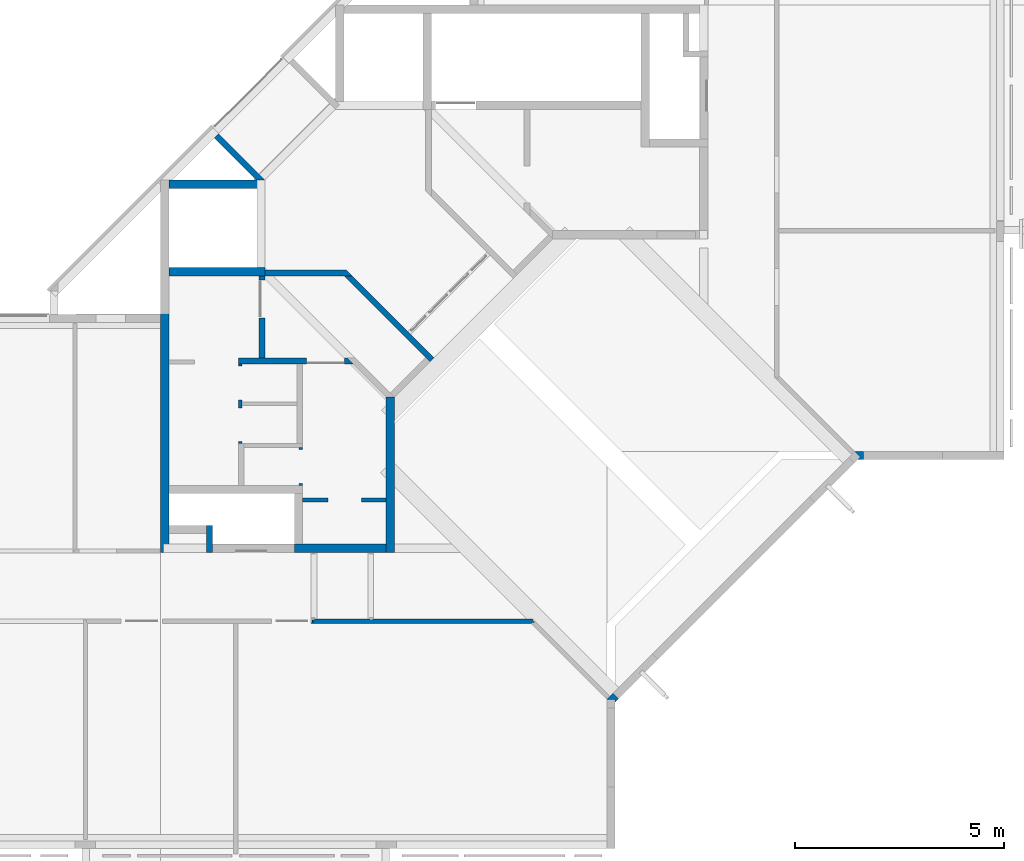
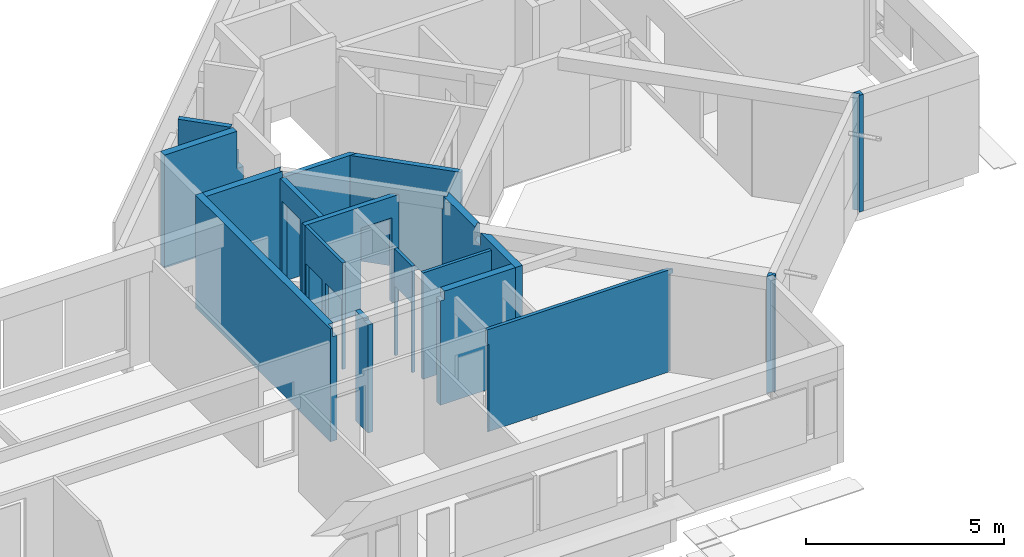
# One storey, part 22 of 38: 17 walls.
"""IFC4X3_ADD2 building model written with IfcOpenShell, lengths in millimetres."""

from ifc_helpers import new_model, si_unit, direction, frame, origin_with_axes, place, context, subcontext, project, spatial, polygons, source, transform, mapped, type_object, type_shapes, element, save


model = new_model("IFC4X3_ADD2")

# Units and contexts
model_context = context("Model", 3, precision=1e-05, world=origin_with_axes(), true_north=direction((0.0, 1.0)))
body_context = subcontext(model_context, "Body", "Model", "MODEL_VIEW")
ifc_project = project(units=[si_unit("LENGTHUNIT", "METRE", prefix="MILLI"), si_unit("AREAUNIT", "SQUARE_METRE"), si_unit("VOLUMEUNIT", "CUBIC_METRE"), si_unit("PLANEANGLEUNIT", "RADIAN"), si_unit("TIMEUNIT", "SECOND"), si_unit("MASSUNIT", "GRAM")], contexts=[model_context])

# Site, building, storey
site_placement = place(None, origin_with_axes())
site = spatial("IfcSite", under=ifc_project, at=site_placement, Name="Site", CompositionType="ELEMENT")
building_placement = place(site_placement, origin_with_axes())
building = spatial("IfcBuilding", under=site, at=building_placement, Name="IFC Building Story")
storey_placement = place(building_placement, frame((0.0, 0.0, 10800.0), z_axis=(0.0, 0.0, 1.0), x_axis=(1.0, 0.0, 0.0)))
storey = spatial("IfcBuildingStorey", under=building, at=storey_placement, Name="030", Elevation=10800.0)

# Walls
wall_type = type_object("IfcWallType", Name="Basic Wall_BB_10.01.41#21_Gipskartonwand_EI60_43dB_MS100 _ 25.50.25_ 100 mm79", PredefinedType="NOTDEFINED")
shared_shape = source(origin_with_axes(), body_context, "Body", "Tessellation", [
    polygons([(87.4999999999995, 49.9999999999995, 2.16573425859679e-12), (5309.11688245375, 49.9999999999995, 2.16573425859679e-12), (5321.61688245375, 37.5000000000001, 2.16573425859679e-12), (87.4999999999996, 37.5000000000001, 2.16573425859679e-12), (5309.11688245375, 49.9999999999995, 5.00000000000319), (5309.11688245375, 49.9999999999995, 3005.0), (5309.11688245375, 49.9999999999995, 3145.0), (5321.61688245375, 37.5000000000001, 3145.0), (5321.61688245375, 37.5000000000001, 3005.0), (5321.61688245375, 37.5000000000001, 5.00000000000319), (0.0, 37.5000000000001, 3145.0), (0.0, 37.5000000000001, 3005.0), (0.0, 37.5000000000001, 2685.0), (50.0000000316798, 37.5000000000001, 2685.0), (50.0000000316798, 37.5000000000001, 5.00000000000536), (87.4999999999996, 37.5000000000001, 5.00000000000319), (87.4999999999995, 49.9999999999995, 5.00000000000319), (50.0000000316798, 49.9999999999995, 5.00000000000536), (50.0000000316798, 49.9999999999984, 2685.0), (2.10299530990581e-12, 49.9999999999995, 2685.0), (4.2687295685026e-12, 49.9999999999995, 3005.0), (2.10299530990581e-12, 49.9999999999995, 3145.0), (99.9999999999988, 49.9999999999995, 3145.0), (1399.99999999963, 49.9999999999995, 3145.0), (1499.99999999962, 49.9999999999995, 3145.0)], [[[1, 2, 3, 4]], [[6, 7, 8]], [[6, 8, 9]], [[9, 10, 5]], [[9, 5, 6]], [[10, 3, 2]], [[10, 2, 5]], [[9, 8, 11]], [[9, 11, 12]], [[16, 10, 9]], [[16, 9, 14]], [[14, 15, 16]], [[9, 12, 14]], [[12, 13, 14]], [[16, 4, 3]], [[16, 3, 10]], [[21, 22, 23]], [[23, 19, 20]], [[23, 20, 21]], [[23, 17, 18]], [[23, 18, 19]], [[6, 5, 17]], [[6, 17, 25]], [[25, 7, 6]], [[17, 24, 25]], [[17, 23, 24]], [[5, 2, 1]], [[5, 1, 17]], [[17, 1, 4, 16]], [[15, 18, 17, 16]], [[18, 15, 14, 19]], [[14, 13, 20, 19]], [[12, 11, 22]], [[12, 22, 21]], [[21, 20, 13]], [[21, 13, 12]], [[23, 22, 11]], [[24, 23, 11]], [[11, 25, 24]], [[25, 11, 8]], [[8, 7, 25]]]),
    polygons([(74.9999999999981, 37.5000000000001, 2.16573425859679e-12), (5303.93921292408, 37.5000000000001, 2.16573425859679e-12), (5316.43921292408, 24.9999999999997, 2.16573425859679e-12), (74.9999999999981, 24.9999999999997, 2.16573425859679e-12), (74.9999999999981, 37.5000000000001, 5.00000000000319), (50.0000000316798, 37.5000000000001, 5.00000000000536), (50.0000000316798, 37.5000000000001, 2685.0), (0.0, 37.5000000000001, 2685.0), (0.0, 37.5000000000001, 3005.0), (0.0, 37.5000000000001, 3145.0), (5321.61688245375, 37.5000000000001, 3145.0), (5321.61688245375, 37.5000000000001, 3005.0), (5303.93921292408, 37.5000000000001, 3005.0), (5303.93921292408, 37.5000000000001, 5.00000000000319), (5316.43921292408, 24.9999999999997, 5.00000000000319), (5316.43921292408, 25.0, 3005.0), (5334.11688245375, 24.9999999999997, 3005.0), (5334.11688245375, 24.9999999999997, 3145.0), (0.0, 24.9999999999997, 3145.0), (0.0, 24.9999999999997, 3005.0), (0.0, 24.9999999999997, 2685.0), (50.0000000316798, 24.9999999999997, 2685.0), (50.0000000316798, 24.9999999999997, 5.00000000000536), (74.9999999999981, 24.9999999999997, 5.00000000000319)], [[[1, 2, 3, 4]], [[5, 6, 7]], [[9, 10, 7]], [[7, 8, 9]], [[7, 10, 13]], [[13, 14, 5]], [[13, 5, 7]], [[10, 11, 13]], [[11, 12, 13]], [[14, 2, 1]], [[14, 1, 5]], [[16, 17, 18]], [[24, 15, 16]], [[24, 16, 22]], [[22, 23, 24]], [[16, 20, 22]], [[20, 21, 22]], [[16, 18, 19]], [[16, 19, 20]], [[24, 4, 3]], [[24, 3, 15]], [[14, 13, 16]], [[14, 16, 15]], [[15, 3, 2]], [[15, 2, 14]], [[1, 4, 24, 5]], [[23, 6, 5, 24]], [[6, 23, 22, 7]], [[22, 21, 8, 7]], [[12, 17, 16, 13]], [[18, 11, 10, 19]], [[17, 12, 11, 18]], [[20, 19, 10]], [[20, 10, 9]], [[9, 8, 21]], [[9, 21, 20]]]),
    polygons([(50.0000000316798, 24.9999999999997, 5.00000000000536), (24.9999999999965, 24.9999999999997, 5.00000000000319), (24.9999999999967, -24.9999999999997, 5.00000000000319), (50.00000003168, -24.9999999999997, 5.00000000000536), (24.9999999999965, 24.9999999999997, 2.16573425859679e-12), (5298.76154339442, 24.9999999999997, 2.16573425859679e-12), (5348.76154339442, -24.9999999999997, 2.16573425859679e-12), (24.9999999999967, -24.9999999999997, 2.16573425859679e-12), (50.0000000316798, 24.9999999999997, 2685.0), (0.0, 24.9999999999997, 2685.0), (0.0, 24.9999999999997, 3005.0), (0.0, 24.9999999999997, 3145.0), (5334.11688245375, 24.9999999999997, 3145.0), (5334.11688245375, 24.9999999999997, 3005.0), (5298.76154339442, 24.9999999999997, 3005.0), (5298.76154339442, 24.9999999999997, 5.00000000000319), (5348.76154339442, -24.9999999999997, 5.00000000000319), (5348.76154339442, -25.0, 3005.0), (5384.11688245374, -24.9999999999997, 3005.0), (5384.11688245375, -24.9999999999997, 3145.0), (0.0, -24.9999999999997, 3145.0), (0.0, -24.9999999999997, 3005.0), (0.0, -24.9999999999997, 2685.0), (50.00000003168, -24.9999999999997, 2685.0)], [[[1, 2, 3, 4]], [[5, 6, 7, 8]], [[11, 12, 9]], [[9, 10, 11]], [[16, 6, 1]], [[9, 12, 15]], [[15, 16, 1]], [[15, 1, 9]], [[12, 13, 15]], [[13, 14, 15]], [[6, 5, 1]], [[5, 2, 1]], [[18, 19, 20]], [[24, 4, 17]], [[24, 17, 18]], [[18, 22, 24]], [[22, 23, 24]], [[18, 20, 21]], [[18, 21, 22]], [[4, 3, 8]], [[8, 7, 17]], [[8, 17, 4]], [[16, 15, 18]], [[16, 18, 17]], [[17, 7, 6]], [[17, 6, 16]], [[5, 8, 3, 2]], [[4, 24, 9, 1]], [[24, 23, 10, 9]], [[14, 19, 18, 15]], [[20, 13, 12, 21]], [[19, 14, 13, 20]], [[22, 21, 12]], [[22, 12, 11]], [[11, 10, 23]], [[11, 23, 22]]]),
    polygons([(50.00000003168, -24.9999999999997, 5.00000000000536), (12.4999999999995, -24.9999999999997, 5.00000000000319), (12.4999999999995, -37.5000000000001, 5.00000000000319), (50.00000003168, -37.5000000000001, 5.00000000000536), (12.4999999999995, -24.9999999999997, 2.16573425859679e-12), (5278.05086527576, -24.9999999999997, 2.16573425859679e-12), (5290.55086527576, -37.5000000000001, 2.16573425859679e-12), (12.4999999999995, -37.5000000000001, 2.16573425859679e-12), (50.00000003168, -24.9999999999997, 2685.0), (0.0, -24.9999999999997, 2685.0), (0.0, -24.9999999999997, 3005.0), (0.0, -24.9999999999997, 3145.0), (5384.11688245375, -24.9999999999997, 3145.0), (5384.11688245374, -24.9999999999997, 3005.0), (5278.05086527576, -24.9999999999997, 3005.0), (5278.05086527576, -24.9999999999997, 5.00000000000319), (5290.55086527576, -37.5000000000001, 5.00000000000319), (5290.55086527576, -37.4999999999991, 3005.0), (5396.61688245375, -37.5000000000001, 3005.0), (5396.61688245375, -37.5000000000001, 3145.0), (0.0, -37.5000000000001, 3145.0), (0.0, -37.5000000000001, 3005.0), (0.0, -37.5000000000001, 2685.0), (50.00000003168, -37.5000000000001, 2685.0)], [[[1, 2, 3, 4]], [[5, 6, 7, 8]], [[11, 12, 9]], [[9, 10, 11]], [[16, 6, 1]], [[9, 12, 15]], [[15, 16, 1]], [[15, 1, 9]], [[12, 13, 15]], [[13, 14, 15]], [[6, 5, 1]], [[5, 2, 1]], [[18, 19, 20]], [[24, 4, 17]], [[24, 17, 18]], [[18, 22, 24]], [[22, 23, 24]], [[18, 20, 21]], [[18, 21, 22]], [[4, 3, 8]], [[8, 7, 17]], [[8, 17, 4]], [[16, 15, 18]], [[16, 18, 17]], [[17, 7, 6]], [[17, 6, 16]], [[5, 8, 3, 2]], [[4, 24, 9, 1]], [[24, 23, 10, 9]], [[14, 19, 18, 15]], [[20, 13, 12, 21]], [[19, 14, 13, 20]], [[22, 21, 12]], [[22, 12, 11]], [[11, 10, 23]], [[11, 23, 22]]]),
    polygons([(50.00000003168, -37.5000000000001, 5.00000000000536), (0.0, -37.5000000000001, 5.00000000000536), (0.0, -50.0, 5.00000000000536), (50.0000000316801, -50.0, 5.00000000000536), (5272.8731957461, -37.5000000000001, 2.16573425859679e-12), (0.0, -37.5000000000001, 2.16573425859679e-12), (50.00000003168, -37.5000000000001, 2685.0), (0.0, -37.5000000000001, 2685.0), (0.0, -37.5000000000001, 3005.0), (0.0, -37.5000000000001, 3145.0), (5396.61688245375, -37.5000000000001, 3145.0), (5396.61688245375, -37.5000000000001, 3005.0), (5272.8731957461, -37.5000000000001, 3005.0), (5272.8731957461, -37.5000000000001, 5.00000000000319), (5285.3731957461, -49.9999999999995, 2.16573425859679e-12), (5267.69552621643, -49.9999999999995, 2.16573425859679e-12), (0.0, -50.0, 2.16573425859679e-12), (5285.3731957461, -49.9999999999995, 5.00000000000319), (5285.3731957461, -49.9999999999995, 3005.0), (5409.11688245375, -50.0, 3005.0), (5409.11688245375, -50.0, 3145.0), (2.42500666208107e-12, -50.0, 3145.0), (4.59074092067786e-12, -50.0, 3005.0), (2.42500666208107e-12, -50.0, 2685.0), (50.0000000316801, -50.0000000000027, 2685.0)], [[[1, 2, 3, 4]], [[9, 10, 7]], [[7, 8, 9]], [[14, 5, 1]], [[7, 10, 13]], [[13, 14, 1]], [[13, 1, 7]], [[10, 11, 13]], [[11, 12, 13]], [[5, 6, 1]], [[6, 2, 1]], [[16, 17, 6]], [[16, 6, 5]], [[5, 15, 16]], [[2, 6, 17, 3]], [[16, 15, 18]], [[19, 20, 21]], [[4, 3, 17]], [[4, 17, 16]], [[16, 18, 19]], [[16, 19, 25]], [[16, 25, 4]], [[19, 23, 25]], [[23, 24, 25]], [[19, 21, 22]], [[19, 22, 23]], [[18, 15, 5]], [[18, 5, 14]], [[14, 13, 19]], [[14, 19, 18]], [[7, 1, 4, 25]], [[8, 7, 25, 24]], [[9, 8, 24]], [[9, 24, 23]], [[23, 22, 10]], [[23, 10, 9]], [[12, 20, 19, 13]], [[11, 10, 22, 21]], [[20, 12, 11, 21]]]),
])
type_shapes(wall_type, [shared_shape])
wall_1_placement = place(storey_placement, frame((-16500.0, 5350.0, -5.0), z_axis=(0.0, 0.0, 1.0), x_axis=(1.0, 0.0, 0.0)))
element("IfcWall", 1, at=wall_1_placement, inside=storey, type_object=wall_type, Name="Basic Wall:BB_10.01.41#21_Gipskartonwand_EI60_43dB_MS100 / 25.50.25, 100 mm", ObjectType="Basic Wall:BB_10.01.41#21_Gipskartonwand_EI60_43dB_MS100 / 25.50.25, 100 mm", PredefinedType="PARTITIONING", context=body_context, shape_type="MappedRepresentation", body=[
    mapped(shared_shape, transform((0.0, 0.0, 0.0))),
])
wall_2_placement = place(storey_placement, frame((0.0, 0.0, -10800.0), z_axis=(0.0, 0.0, 1.0), x_axis=(1.0, 0.0, 0.0)))
element("IfcWall", 2, at=wall_2_placement, inside=storey, Name="Basic Wall:BB_XX_Wand uit beton, 200 mm", ObjectType="Basic Wall:BB_XX_Wand uit beton, 200 mm", PredefinedType="SOLIDWALL", context=body_context, shape_type="Tessellation", body=[
    polygons([(-17600.00000000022, 13815.0, 10720.0), (-19900.00000000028, 13815.0, 10720.0), (-19900.00000000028, 13815.0, 14200.0), (-17600.00000000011, 13814.99999999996, 14200.0), (-17600.00000000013, 13814.99999999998, 13800.0), (-19900.00000000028, 13615.0, 10720.0), (-17600.00000000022, 13615.0, 10720.0), (-17600.00000000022, 13615.0, 13800.0), (-17668.70057685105, 13615.0, 13800.0), (-17668.70057685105, 13615.0, 14200.0), (-19900.00000000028, 13615.0, 14200.0), (-17734.35028842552, 13680.64971157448, 14200.0), (-17734.35028842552, 13680.64971157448, 13800.0)], [[[5, 1, 2]], [[5, 2, 3]], [[3, 4, 5]], [[9, 10, 11]], [[11, 6, 7]], [[11, 7, 9]], [[7, 8, 9]], [[2, 1, 7, 6]], [[12, 4, 3]], [[12, 3, 11]], [[11, 10, 12]], [[7, 1, 5, 8]], [[3, 2, 6, 11]], [[13, 5, 4, 12]], [[13, 12, 10, 9]], [[5, 13, 9, 8]]]),
])
wall_3_placement = place(storey_placement, frame((0.0, 0.0, -10800.0), z_axis=(0.0, 0.0, 1.0), x_axis=(1.0, 0.0, 0.0)))
element("IfcWall", 3, at=wall_3_placement, inside=storey, Name="Basic Wall:BB_XX_Wand uit beton, 200 mm", ObjectType="Basic Wall:BB_XX_Wand uit beton, 200 mm", PredefinedType="SOLIDWALL", context=body_context, shape_type="Tessellation", body=[
    polygons([(-19900.0, 15715.0, 10720.0), (-17600.00000000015, 15715.0, 10720.0), (-17600.00000000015, 15715.0, 13050.0), (-17790.00000000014, 15715.0, 13050.0), (-17790.00000000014, 15715.0, 14200.0), (-19900.0, 15715.0, 14200.0), (-17600.00000000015, 15915.0, 10720.0), (-19900.0, 15915.0, 10720.0), (-19900.0, 15915.0, 14200.0), (-17868.70057685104, 15915.0, 14200.0), (-17790.00000000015, 15915.0, 14200.0), (-17790.00000000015, 15915.0, 13480.0), (-17790.00000000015, 15915.0, 13050.0), (-17600.00000000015, 15915.0, 13050.0)], [[[4, 5, 6]], [[6, 1, 2]], [[6, 2, 4]], [[2, 3, 4]], [[10, 11, 12]], [[13, 14, 7]], [[13, 7, 8]], [[13, 8, 9]], [[9, 10, 12]], [[9, 12, 13]], [[2, 1, 8, 7]], [[2, 7, 14, 3]], [[10, 9, 6]], [[10, 6, 5]], [[5, 11, 10]], [[6, 9, 8, 1]], [[12, 11, 5]], [[12, 5, 4]], [[4, 13, 12]], [[13, 4, 3, 14]]]),
])
wall_4_placement = place(storey_placement, frame((0.0, 0.0, -10800.0), z_axis=(0.0, 0.0, 1.0), x_axis=(1.0, 0.0, 0.0)))
element("IfcWall", 4, at=wall_4_placement, inside=storey, Name="Basic Wall:BB_XX_Wand uit beton, 200 mm", ObjectType="Basic Wall:BB_XX_Wand uit beton, 200 mm", PredefinedType="SOLIDWALL", context=body_context, shape_type="Tessellation", body=[
    polygons([(-20100.0, 13815.0, 10720.0), (-20100.0, 7000.0, 10720.0), (-20100.0, 7000.0, 14200.0), (-20100.0, 13815.0, 14200.0), (-19900.0, 7000.0, 10720.0), (-19900.0, 13615.0, 10720.0), (-19900.0, 13815.0, 10720.0), (-19900.0, 13815.0, 14200.0), (-19900.0, 13615.0, 14200.0), (-19900.0, 7199.99999999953, 14200.0), (-19900.0, 7199.99999999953, 13940.0), (-19900.0, 7000.0, 13940.0), (-20034.99999999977, 6999.99999999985, 13940.0), (-20034.99999999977, 7000.0, 14200.0), (-20034.99999999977, 7199.99999999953, 14200.0), (-20034.99999999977, 7199.99999999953, 13940.0)], [[[1, 2, 3, 4]], [[6, 7, 8]], [[6, 8, 9]], [[11, 12, 5]], [[11, 5, 6]], [[11, 6, 9]], [[9, 10, 11]], [[6, 5, 2]], [[6, 2, 1]], [[1, 7, 6]], [[13, 14, 3]], [[13, 3, 2]], [[2, 5, 12]], [[2, 12, 13]], [[9, 8, 4]], [[4, 15, 10]], [[4, 10, 9]], [[4, 3, 15]], [[3, 14, 15]], [[16, 15, 14, 13]], [[16, 13, 12, 11]], [[15, 16, 11, 10]], [[1, 4, 8, 7]]]),
])
wall_5_placement = place(storey_placement, frame((0.0, 0.0, -10800.0), z_axis=(0.0, 0.0, 1.0), x_axis=(1.0, 0.0, 0.0)))
element("IfcWall", 5, at=wall_5_placement, inside=storey, Name="Basic Wall:BB_XX_Wand uit metselwerk, 140 mm", ObjectType="Basic Wall:BB_XX_Wand uit metselwerk, 140 mm", PredefinedType="SOLIDWALL", context=body_context, shape_type="Tessellation", body=[
    polygons([(-17740.0, 11650.00000000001, 14000.0), (-17740.0, 13615.0, 14000.0), (-17740.0, 13615.0, 10720.0), (-17740.0, 13514.51823025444, 10720.0), (-17740.0, 13514.51823025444, 13350.0), (-17740.0, 12604.51823025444, 13350.0), (-17740.0, 12604.51823025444, 10720.0), (-17740.0, 11650.00000000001, 10720.0), (-17600.0, 13615.0, 14000.0), (-17600.0, 11650.00000000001, 14000.0), (-17600.0, 11650.00000000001, 10720.0), (-17600.0, 12604.51823025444, 10720.0), (-17600.0, 12604.51823025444, 13350.0), (-17600.0, 13514.51823025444, 13350.0), (-17600.0, 13514.51823025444, 10720.0), (-17600.0, 13615.0, 10720.0)], [[[6, 7, 8]], [[6, 8, 1]], [[1, 2, 5]], [[1, 5, 6]], [[2, 3, 4]], [[2, 4, 5]], [[14, 15, 16]], [[14, 16, 9]], [[9, 10, 13]], [[9, 13, 14]], [[10, 11, 12]], [[10, 12, 13]], [[3, 16, 15, 4]], [[2, 1, 10, 9]], [[3, 2, 9, 16]], [[1, 8, 11, 10]], [[13, 6, 5, 14]], [[14, 5, 4, 15]], [[6, 13, 12, 7]], [[11, 8, 7, 12]]]),
])
wall_6_placement = place(storey_placement, frame((0.0, 0.0, -10800.0), z_axis=(0.0, 0.0, 1.0), x_axis=(1.0, 0.0, 0.0)))
element("IfcWall", 6, at=wall_6_placement, inside=storey, Name="Basic Wall:BB_XX_Wand uit metselwerk, 140 mm", ObjectType="Basic Wall:BB_XX_Wand uit metselwerk, 140 mm", PredefinedType="SOLIDWALL", context=body_context, shape_type="Tessellation", body=[
    polygons([(-18860.1640790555, 6999.999999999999, 10600.0), (-18860.1640790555, 7190.0, 10600.0), (-18860.1640790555, 7639.999999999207, 10600.0), (-18860.1640790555, 7639.999999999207, 14000.0), (-18860.1640790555, 7199.999999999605, 14000.0), (-18860.1640790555, 7199.999999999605, 13940.0), (-18860.1640790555, 7190.0, 13940.0), (-18860.1640790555, 6999.999999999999, 13940.0), (-19000.1640790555, 7639.999999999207, 10600.0), (-19000.1640790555, 7449.999999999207, 10600.0), (-19000.1640790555, 6999.999999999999, 10600.0), (-19000.1640790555, 6999.999999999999, 13940.0), (-19000.1640790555, 7199.999999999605, 13940.0), (-19000.1640790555, 7199.999999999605, 14000.0), (-19000.1640790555, 7449.999999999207, 14000.0), (-19000.1640790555, 7639.999999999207, 14000.0)], [[[6, 7, 2]], [[6, 2, 3]], [[3, 4, 6]], [[4, 5, 6]], [[7, 8, 1]], [[7, 1, 2]], [[13, 14, 15]], [[13, 15, 10]], [[13, 10, 11]], [[11, 12, 13]], [[15, 16, 9]], [[15, 9, 10]], [[2, 1, 11]], [[10, 9, 3]], [[3, 2, 11]], [[3, 11, 10]], [[15, 14, 5]], [[15, 5, 4]], [[4, 16, 15]], [[11, 1, 8, 12]], [[4, 3, 9, 16]], [[7, 6, 13]], [[13, 12, 8]], [[13, 8, 7]], [[13, 6, 5, 14]]]),
])
wall_7_placement = place(storey_placement, frame((0.0, 0.0, -10800.0), z_axis=(0.0, 0.0, 1.0), x_axis=(1.0, 0.0, 0.0)))
element("IfcWall", 7, at=wall_7_placement, inside=storey, Name="Basic Wall:BB_XX_Wand uit metselwerk, 140 mm", ObjectType="Basic Wall:BB_XX_Wand uit metselwerk, 140 mm", PredefinedType="SOLIDWALL", context=body_context, shape_type="Tessellation", body=[
    polygons([(-15492.98989873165, 11510.0, 14000.0), (-18240.0, 11510.0, 14000.0), (-18240.0, 11510.0, 10720.0), (-16602.00000000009, 11510.0, 10720.0), (-16602.00000000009, 11510.0, 13350.0), (-15692.00000000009, 11510.0, 13350.0), (-15692.00000000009, 11510.0, 10720.0), (-15492.98989873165, 11510.0, 10720.0), (-18240.0, 11650.0, 14000.0), (-17739.99999999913, 11650.0, 14000.0), (-17599.99999999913, 11650.0, 14000.0), (-15632.98989873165, 11650.0, 14000.0), (-15632.98989873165, 11650.0, 13800.0), (-15632.98989873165, 11650.0, 10720.0), (-15692.00000000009, 11650.0, 10720.0), (-15692.00000000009, 11650.0, 13350.0), (-16602.00000000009, 11650.0, 13350.0), (-16602.00000000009, 11650.0, 10720.0), (-17599.99999999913, 11650.0, 10720.0), (-17739.99999999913, 11650.0, 10720.0), (-18240.0, 11650.0, 10720.0)], [[[6, 7, 8]], [[6, 8, 1]], [[1, 5, 6]], [[5, 1, 2]], [[2, 3, 4]], [[2, 4, 5]], [[17, 18, 19]], [[17, 19, 11]], [[11, 13, 17]], [[13, 16, 17]], [[13, 14, 15]], [[13, 15, 16]], [[11, 12, 13]], [[19, 20, 10]], [[19, 10, 11]], [[20, 21, 9]], [[20, 9, 10]], [[19, 18, 4]], [[19, 4, 3]], [[3, 20, 19]], [[3, 21, 20]], [[10, 9, 2]], [[2, 11, 10]], [[2, 1, 12]], [[2, 12, 11]], [[3, 2, 9, 21]], [[13, 12, 1]], [[1, 8, 14]], [[1, 14, 13]], [[16, 6, 5, 17]], [[17, 5, 4, 18]], [[6, 16, 15, 7]], [[14, 8, 7, 15]]]),
])
wall_8_placement = place(storey_placement, frame((0.0, 0.0, -10800.0), z_axis=(0.0, 0.0, 1.0), x_axis=(1.0, 0.0, 0.0)))
element("IfcWall", 8, at=wall_8_placement, inside=storey, Name="Basic Wall:BB_XX_Wand uit beton, 200 mm", ObjectType="Basic Wall:BB_XX_Wand uit beton, 200 mm", PredefinedType="SOLIDWALL", context=body_context, shape_type="Tessellation", body=[
    polygons([(-14700.0, 10717.0101012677, 10720.0), (-14700.0, 7199.99999999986, 10720.0), (-14700.0, 6999.99999999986, 10720.0), (-14700.0, 6999.99999999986, 14200.0), (-14700.0, 7199.99999999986, 14200.0), (-14700.0, 8765.38222280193, 14200.0), (-14700.0, 8765.38222280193, 13800.0), (-14700.0, 9044.71354962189, 13800.0), (-14700.0, 9044.71354962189, 14200.0), (-14700.0, 10646.29942314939, 14200.0), (-14700.0, 10646.29942314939, 13800.0), (-14700.0, 10717.0101012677, 13800.0), (-14500.0, 6999.99999999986, 10720.0), (-14500.0, 10714.99999999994, 10720.0), (-14499.9999999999, 10714.9999999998, 13800.0), (-14500.0, 10714.99999999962, 14200.0), (-14500.0, 9131.06764775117, 14200.0), (-14500.0, 9131.06764775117, 13800.0), (-14500.0, 8565.38222280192, 13800.0), (-14500.0, 8565.38222280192, 14200.0), (-14500.0, 6999.99999999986, 14200.0), (-14634.35028842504, 10580.64971157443, 13800.0), (-14634.35028842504, 10580.64971157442, 14200.0), (-14556.82295093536, 9187.890598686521, 13800.0), (-14556.82295093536, 9187.890598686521, 14200.0)], [[[2, 3, 4]], [[2, 4, 5]], [[11, 12, 1]], [[1, 8, 11]], [[8, 9, 10]], [[8, 10, 11]], [[1, 7, 8]], [[1, 2, 5]], [[1, 5, 7]], [[5, 6, 7]], [[15, 16, 17]], [[15, 17, 18]], [[19, 20, 21]], [[19, 21, 13]], [[19, 13, 14]], [[14, 18, 19]], [[14, 15, 18]], [[2, 1, 14]], [[2, 14, 13]], [[13, 3, 2]], [[5, 4, 21]], [[21, 20, 6]], [[21, 6, 5]], [[22, 23, 16, 15]], [[23, 22, 11, 10]], [[22, 15, 12, 11]], [[24, 25, 9, 8]], [[25, 24, 18, 17]], [[24, 8, 7]], [[24, 7, 19]], [[24, 19, 18]], [[19, 7, 6, 20]], [[14, 1, 12, 15]], [[3, 13, 21, 4]], [[23, 10, 9]], [[25, 17, 16]], [[16, 23, 9]], [[16, 9, 25]]]),
])
wall_9_placement = place(storey_placement, frame((0.0, 0.0, -10800.0), z_axis=(0.0, 0.0, 1.0), x_axis=(1.0, 0.0, 0.0)))
element("IfcWall", 9, at=wall_9_placement, inside=storey, Name="Basic Wall:BB_XX_Wand uit beton, 200 mm", ObjectType="Basic Wall:BB_XX_Wand uit beton, 200 mm", PredefinedType="SOLIDWALL", context=body_context, shape_type="Tessellation", body=[
    polygons([(-14700.0, 7200.0, 10720.0), (-16890.0, 7200.0, 10720.0), (-16890.0, 7200.0, 13940.0), (-16774.99999999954, 7199.999999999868, 13940.0), (-16774.99999999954, 7200.0, 14200.0), (-14700.0, 7200.0, 14200.0), (-16890.0, 7000.0, 10720.0), (-14700.0, 6999.999999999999, 10720.0), (-14700.0, 6999.999999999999, 14200.0), (-16774.99999999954, 7000.0, 14200.0), (-16774.99999999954, 6999.999999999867, 13940.0), (-16890.0, 7000.0, 13940.0)], [[[4, 5, 6]], [[6, 1, 2]], [[6, 2, 4]], [[2, 3, 4]], [[11, 12, 7]], [[11, 7, 8]], [[11, 8, 9]], [[9, 10, 11]], [[2, 1, 8, 7]], [[2, 7, 12, 3]], [[9, 6, 5, 10]], [[1, 6, 9, 8]], [[4, 11, 10, 5]], [[11, 4, 3, 12]]]),
])
wall_10_placement = place(storey_placement, frame((0.0, 0.0, -10800.0), z_axis=(0.0, 0.0, 1.0), x_axis=(1.0, 0.0, 0.0)))
element("IfcWall", 10, at=wall_10_placement, inside=storey, Name="Basic Wall:BB_XX_Wand uit beton, 190 mm", ObjectType="Basic Wall:BB_XX_Wand uit beton, 190 mm", PredefinedType="SOLIDWALL", context=body_context, shape_type="Tessellation", body=[
    polygons([(-9133.533494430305, 3495.461454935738, 10600.0), (-9133.533494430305, 3495.461454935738, 14200.0), (-9224.999999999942, 3403.994949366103, 14200.0), (-9224.999999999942, 3403.994949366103, 10600.0), (-9267.88378285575, 3629.811743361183, 10600.0), (-9414.999999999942, 3482.695526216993, 10600.0), (-9414.999999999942, 3482.695526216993, 14200.0), (-9267.88378285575, 3629.811743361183, 14200.0), (-9224.99999999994, 3482.695526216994, 10600.0), (-9224.99999999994, 3482.695526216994, 14200.0)], [[[1, 2, 3, 4]], [[5, 6, 7, 8]], [[9, 6, 5]], [[9, 5, 1]], [[1, 4, 9]], [[2, 1, 5, 8]], [[10, 3, 2]], [[2, 8, 7]], [[2, 7, 10]], [[10, 9, 4, 3]], [[9, 10, 7, 6]]]),
])
wall_11_placement = place(storey_placement, frame((0.0, 0.0, -10800.0), z_axis=(0.0, 0.0, 1.0), x_axis=(1.0, 0.0, 0.0)))
element("IfcWall", 11, at=wall_11_placement, inside=storey, Name="Basic Wall:BB_XX_Wand uit beton, 190 mm", ObjectType="Basic Wall:BB_XX_Wand uit beton, 190 mm", PredefinedType="SOLIDWALL", context=body_context, shape_type="Tessellation", body=[
    polygons([(-3274.999999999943, 9225.000000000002, 10600.0), (-3274.999999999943, 9225.000000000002, 14200.0), (-3403.994949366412, 9225.000000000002, 14200.0), (-3403.994949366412, 9225.000000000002, 10600.0), (-3274.999999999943, 9415.000000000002, 10600.0), (-3482.6955262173, 9415.0, 10600.0), (-3482.6955262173, 9415.0, 14200.0), (-3274.999999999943, 9415.000000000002, 14200.0), (-3348.345237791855, 9280.649711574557, 10600.0), (-3348.345237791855, 9280.649711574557, 14200.0)], [[[1, 2, 3, 4]], [[5, 6, 7, 8]], [[9, 6, 5]], [[9, 5, 1]], [[1, 4, 9]], [[2, 1, 5, 8]], [[10, 3, 2]], [[2, 8, 7]], [[2, 7, 10]], [[10, 9, 4, 3]], [[9, 10, 7, 6]]]),
])
wall_12_placement = place(storey_placement, frame((0.0, 0.0, -10800.0), z_axis=(0.0, 0.0, 1.0), x_axis=(1.0, 0.0, 0.0)))
element("IfcWall", 12, at=wall_12_placement, inside=storey, Name="Basic Wall:BB_XX_Wand uit metselwerk, 90 mm", ObjectType="Basic Wall:BB_XX_Wand uit metselwerk, 90 mm", PredefinedType="SOLIDWALL", context=body_context, shape_type="Tessellation", body=[
    polygons([(-14699.99999999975, 8209.999999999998, 10720.0), (-14699.99999999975, 8209.999999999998, 14000.0), (-16700.1157781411, 8210.0, 14000.0), (-16700.1157781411, 8210.0, 10720.0), (-16097.99999999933, 8210.0, 10720.0), (-16097.99999999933, 8210.0, 12860.0), (-15291.99999999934, 8210.0, 12860.0), (-15291.99999999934, 8210.0, 10720.0), (-14699.99999999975, 8300.0, 14000.0), (-14699.99999999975, 8300.0, 10720.0), (-15291.99999999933, 8300.0, 10720.0), (-15291.99999999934, 8300.0, 12860.0), (-16097.99999999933, 8300.0, 12860.0), (-16097.99999999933, 8300.0, 10720.0), (-16700.1157781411, 8300.0, 10720.0), (-16700.1157781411, 8300.0, 14000.0)], [[[7, 8, 1]], [[7, 1, 2]], [[2, 3, 6]], [[2, 6, 7]], [[3, 4, 5]], [[3, 5, 6]], [[13, 14, 15]], [[13, 15, 16]], [[16, 9, 12]], [[16, 12, 13]], [[9, 10, 11]], [[9, 11, 12]], [[4, 15, 14, 5]], [[2, 1, 10, 9]], [[3, 2, 9, 16]], [[4, 3, 16, 15]], [[13, 6, 5, 14]], [[7, 12, 11, 8]], [[6, 13, 12, 7]], [[10, 1, 8, 11]]]),
])
wall_13_placement = place(storey_placement, frame((0.0, 0.0, -10800.0), z_axis=(0.0, 0.0, 1.0), x_axis=(1.0, 0.0, 0.0)))
element("IfcWall", 13, at=wall_13_placement, inside=storey, Name="Basic Wall:BB_XX_Wand uit metselwerk, 90 mm", ObjectType="Basic Wall:BB_XX_Wand uit metselwerk, 90 mm", PredefinedType="SOLIDWALL", context=body_context, shape_type="Tessellation", body=[
    polygons([(-16700.0, 9510.0, 14000.0), (-16700.0, 8600.0, 14000.0), (-16700.0, 8600.0, 10720.0), (-16700.0, 8651.999999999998, 10720.0), (-16700.0, 8651.999999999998, 12860.0), (-16700.0, 9457.999999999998, 12860.0), (-16700.0, 9457.999999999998, 10720.0), (-16700.0, 9510.0, 10720.0), (-16790.0, 8600.0, 14000.0), (-16790.0, 9510.0, 14000.0), (-16790.0, 9510.0, 10720.0), (-16790.0, 9457.999999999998, 10720.0), (-16790.0, 9457.999999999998, 12860.0), (-16790.0, 8651.999999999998, 12860.0), (-16790.0, 8651.999999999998, 10720.0), (-16790.0, 8600.0, 10720.0)], [[[6, 7, 8]], [[8, 1, 6]], [[1, 2, 5]], [[1, 5, 6]], [[5, 2, 3]], [[3, 4, 5]], [[14, 15, 16]], [[16, 9, 14]], [[9, 10, 13]], [[9, 13, 14]], [[13, 10, 11]], [[11, 12, 13]], [[3, 16, 15, 4]], [[2, 1, 10, 9]], [[3, 2, 9, 16]], [[14, 5, 4, 15]], [[6, 13, 12, 7]], [[5, 14, 13, 6]], [[1, 8, 11, 10]], [[11, 8, 7, 12]]]),
])
wall_14_placement = place(storey_placement, frame((0.0, 0.0, -10800.0), z_axis=(0.0, 0.0, 1.0), x_axis=(1.0, 0.0, 0.0)))
element("IfcWall", 14, at=wall_14_placement, inside=storey, Name="Basic Wall:BB_XX_Wand uit metselwerk, 90 mm", ObjectType="Basic Wall:BB_XX_Wand uit metselwerk, 90 mm", PredefinedType="SOLIDWALL", context=body_context, shape_type="Tessellation", body=[
    polygons([(-18240.0, 9600.00000000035, 10720.0), (-18240.0, 9600.00000000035, 14000.0), (-18240.0, 11510.0, 14000.0), (-18240.0, 11510.0, 10720.0), (-18240.0, 11458.00000000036, 10720.0), (-18240.0, 11458.00000000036, 12860.0), (-18240.0, 10652.00000000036, 12860.0), (-18240.0, 10652.00000000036, 10720.0), (-18240.0, 10458.00000000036, 10720.0), (-18240.0, 10458.00000000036, 12860.0), (-18240.0, 9652.00000000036, 12860.0), (-18240.0, 9652.00000000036, 10720.0), (-18150.0, 9600.00000000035, 14000.0), (-18150.0, 9600.00000000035, 10720.0), (-18150.0, 9652.00000000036, 10720.0), (-18150.0, 9652.00000000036, 12860.0), (-18150.0, 10458.00000000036, 12860.0), (-18150.0, 10458.00000000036, 10720.0), (-18150.0, 10652.00000000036, 10720.0), (-18150.0, 10652.00000000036, 12860.0), (-18150.0, 11458.00000000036, 12860.0), (-18150.0, 11458.00000000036, 10720.0), (-18150.0, 11510.0, 10720.0), (-18150.0, 11510.0, 14000.0)], [[[11, 12, 1]], [[1, 2, 11]], [[2, 10, 11]], [[2, 7, 10]], [[7, 8, 9]], [[7, 9, 10]], [[2, 3, 7]], [[3, 6, 7]], [[6, 3, 4]], [[4, 5, 6]], [[21, 22, 23]], [[23, 24, 21]], [[24, 20, 21]], [[24, 17, 20]], [[17, 18, 19]], [[17, 19, 20]], [[24, 13, 17]], [[13, 16, 17]], [[16, 13, 14]], [[14, 15, 16]], [[4, 23, 22, 5]], [[2, 1, 14, 13]], [[3, 2, 13, 24]], [[4, 3, 24, 23]], [[21, 6, 5, 22]], [[7, 20, 19, 8]], [[6, 21, 20, 7]], [[17, 10, 9, 18]], [[11, 16, 15, 12]], [[10, 17, 16, 11]], [[8, 19, 18, 9]], [[14, 1, 12, 15]]]),
])
wall_15_placement = place(storey_placement, frame((0.0, 0.0, -10800.0), z_axis=(0.0, 0.0, 1.0), x_axis=(1.0, 0.0, 0.0)))
element("IfcWall", 15, at=wall_15_placement, inside=storey, Name="Basic Wall:BB_03.09.24#02_Wand uit metselwerk_EI60_43dB, 140 mm", ObjectType="Basic Wall:BB_03.09.24#02_Wand uit metselwerk_EI60_43dB, 140 mm", PredefinedType="SOLIDWALL", context=body_context, shape_type="Tessellation", body=[
    polygons([(-17611.71008537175, 15914.99999999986, 10800.0), (-18716.53886979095, 17019.82878441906, 10800.0), (-18716.53886979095, 17019.82878441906, 14200.0), (-17740.20533111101, 16043.49524573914, 14200.0), (-17740.20533111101, 16043.49524573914, 13460.0), (-17611.71008537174, 15914.99999999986, 13460.0), (-18815.53381915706, 16920.83383505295, 14200.0), (-18815.53381915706, 16920.83383505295, 10800.0), (-17809.69998410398, 15914.99999999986, 10800.0), (-17809.69998410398, 15914.99999999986, 13460.0), (-17839.20028047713, 15944.50029637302, 13460.0), (-17839.20028047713, 15944.50029637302, 14200.0)], [[[5, 6, 1]], [[5, 1, 2]], [[5, 2, 3]], [[3, 4, 5]], [[11, 12, 7]], [[7, 8, 9]], [[7, 9, 11]], [[9, 10, 11]], [[2, 1, 9, 8]], [[3, 2, 8, 7]], [[3, 7, 12, 4]], [[9, 1, 6, 10]], [[5, 11, 10, 6]], [[11, 5, 4, 12]]]),
])
wall_16_placement = place(storey_placement, frame((0.0, 0.0, -10800.0), z_axis=(0.0, 0.0, 1.0), x_axis=(1.0, 0.0, 0.0)))
element("IfcWall", 16, at=wall_16_placement, inside=storey, Name="Basic Wall:BB_03.09.24#02_Wand uit metselwerk_EI60_43dB, 140 mm", ObjectType="Basic Wall:BB_03.09.24#02_Wand uit metselwerk_EI60_43dB, 140 mm", PredefinedType="SOLIDWALL", context=body_context, shape_type="Tessellation", body=[
    polygons([(-15510.04617358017, 13615.0, 14000.0), (-15708.0360723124, 13615.0, 14000.0), (-17600.0, 13615.0, 14000.0), (-17600.0, 13615.0, 10790.0), (-15708.0360723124, 13615.0, 10790.0), (-15510.04617358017, 13615.0, 10790.0), (-17600.0, 13755.0, 14000.0), (-15650.04617358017, 13755.0, 14000.0), (-15650.04617358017, 13755.0, 10790.0), (-17600.0, 13755.0, 10790.0)], [[[2, 3, 4]], [[2, 4, 5]], [[5, 6, 1]], [[5, 1, 2]], [[7, 8, 9, 10]], [[2, 1, 8]], [[8, 7, 3]], [[8, 3, 2]], [[3, 7, 10, 4]], [[8, 1, 6, 9]], [[5, 4, 10]], [[5, 10, 9]], [[9, 6, 5]]]),
])
wall_17_placement = place(storey_placement, frame((0.0, 0.0, -10800.0), z_axis=(0.0, 0.0, 1.0), x_axis=(1.0, 0.0, 0.0)))
element("IfcWall", 17, at=wall_17_placement, inside=storey, Name="Basic Wall:BB_03.09.24#02_Wand uit metselwerk_EI60_43dB, 140 mm", ObjectType="Basic Wall:BB_03.09.24#02_Wand uit metselwerk_EI60_43dB, 140 mm", PredefinedType="SOLIDWALL", context=body_context, shape_type="Tessellation", body=[
    polygons([(-13654.32340160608, 11561.28732929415, 14000.0), (-13753.31835097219, 11660.28227866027, 14000.0), (-15708.03607231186, 13614.99999999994, 14000.0), (-15708.03607231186, 13614.99999999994, 10790.0), (-13753.0129855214, 11659.97691320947, 10790.0), (-13753.01298552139, 11659.97691320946, 10720.0), (-13654.32340160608, 11561.28732929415, 10720.0), (-15510.04617357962, 13614.99999999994, 14000.0), (-13555.32845223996, 11660.28227866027, 14000.0), (-13555.32845223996, 11660.28227866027, 10720.0), (-13654.01803615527, 11758.97186257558, 10720.0), (-13654.01803615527, 11758.97186257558, 10790.0), (-15510.04617357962, 13614.99999999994, 10790.0)], [[[2, 3, 4]], [[2, 4, 5]], [[5, 6, 7]], [[7, 1, 2]], [[7, 2, 5]], [[12, 13, 8]], [[12, 8, 9]], [[9, 10, 12]], [[10, 11, 12]], [[10, 7, 6, 11]], [[2, 1, 9]], [[9, 8, 3]], [[9, 3, 2]], [[3, 8, 13, 4]], [[12, 5, 4, 13]], [[5, 12, 11, 6]], [[1, 7, 10, 9]]]),
])

save(model, "model.ifc")
